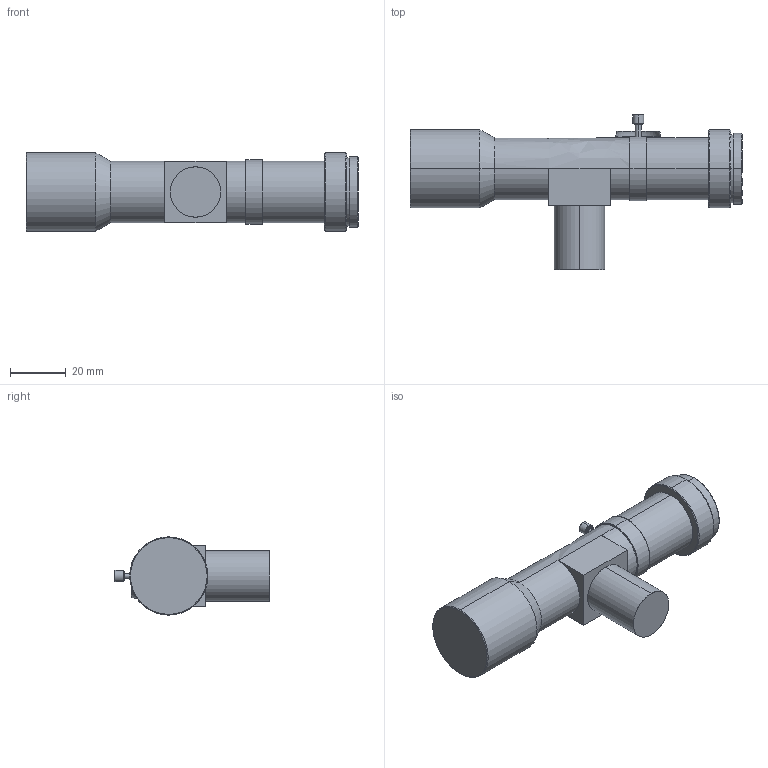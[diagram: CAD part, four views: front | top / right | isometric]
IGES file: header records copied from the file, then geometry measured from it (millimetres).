
Start section: SolidWorks IGES file using analytic representation for surfaces
Global section: file name: C:\Users\16255\Desktop\sw\WWHｺﾍWH\WWH\ﾎｴｻｭﾍ鷭C\WWH07-145CT-G\WWH07-145CT-G IGESﾍｼ.IGS,; native system: SolidWorks 2014; preprocessor: SolidWorks 2014; author: 16255; date: 191108.161008; units: millimetre
Bounding box: 118.7 x 55.6 x 28 mm (x, y, z)
Surface area: 12490.8 mm2 (no closed solid volume)
Topology: 0 solids, 0 shells, 51 faces, 806 edges, 805 vertices
Faces by surface type: revolution 35, bspline 16
